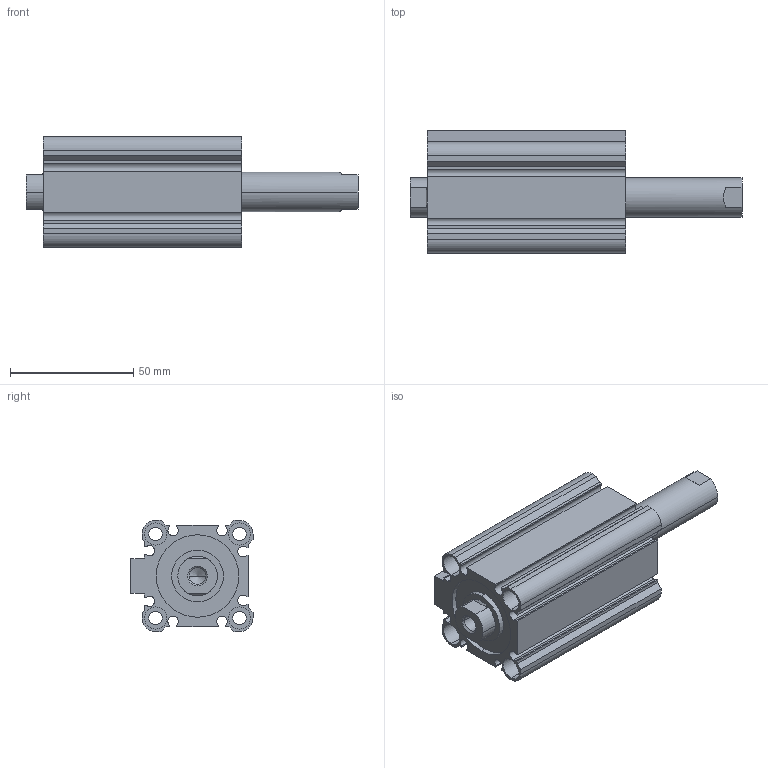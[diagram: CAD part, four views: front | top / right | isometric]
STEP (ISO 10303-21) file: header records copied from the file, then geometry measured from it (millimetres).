
FILE_DESCRIPTION (( 'STEP AP203' ), '1' );
FILE_NAME ('CCMB32-40F-P.STEP', '2020-08-05T11:15:25', ( '' ), ( '' ), 'SwSTEP 2.0', 'SolidWorks 2019', '' );
FILE_SCHEMA (( 'CONFIG_CONTROL_DESIGN' ));
Length unit declared in the file: millimetre
Products named in the file (1): CCMB32-40F-P
Bounding box: 134.5 x 49.5 x 45 mm (x, y, z)
Volume: 115071.3 mm3; surface area: 48696.1 mm2
Topology: 2 solids, 2 shells, 164 faces, 414 edges, 270 vertices
Faces by surface type: plane 78, cylinder 74, cone 12
Entity records: 5029 total; most frequent: DIRECTION 896, CARTESIAN_POINT 857, ORIENTED_EDGE 820, EDGE_CURVE 410, AXIS2_PLACEMENT_3D 325, VERTEX_POINT 270, LINE 246, VECTOR 246
